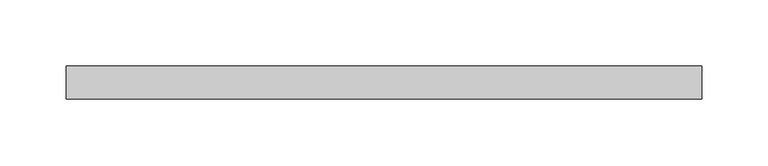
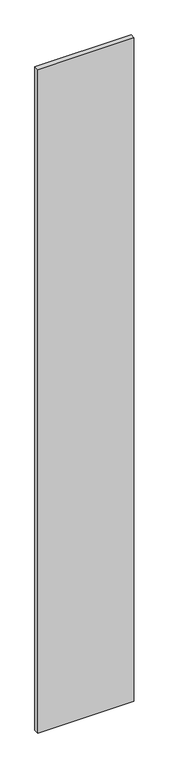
"""IFC4 building model written with IfcOpenShell, lengths in millimetres: plate geometry, システム パネル : ガラス."""

from ifc_helpers import new_model, si_unit, origin, origin_with_axes, place, context, project, spatial, polyline, outline, extrude, source, transform, mapped, element, save


def plate_bbb8b8d4(model_context):
    return source(origin(), model_context, "Body", "SweptSolid", [
        extrude(outline(polyline([(239.9999998, 24.5), (-239.9999998, 24.5), (-239.9999998, 49.5), (239.9999998, 49.5), (239.9999998, 24.5)])), origin_with_axes(), (0.0, 0.0, 1.0), 3500.0),
    ])


if __name__ == "__main__":
    model = new_model("IFC4")
    model_context = context("Model", 3, world=origin())
    ifc_project = project(units=[si_unit("LENGTHUNIT", "METRE", prefix="MILLI")], contexts=[model_context])
    site = spatial("IfcSite", under=ifc_project)
    building = spatial("IfcBuilding", under=site)
    placement = place(None, origin())
    plate_shape = plate_bbb8b8d4(model_context)
    element("IfcPlate", 1, ObjectType="システム パネル : ガラス", at=placement, inside=building, context=model_context, shape_type="MappedRepresentation", body=[
        mapped(plate_shape, transform((0.0, 0.0, 0.0), x_axis=(1.0, 0.0, 0.0), y_axis=(0.0, 1.0, 0.0), z_axis=(0.0, 0.0, 1.0))),
    ])
    save(model, "model.ifc")
